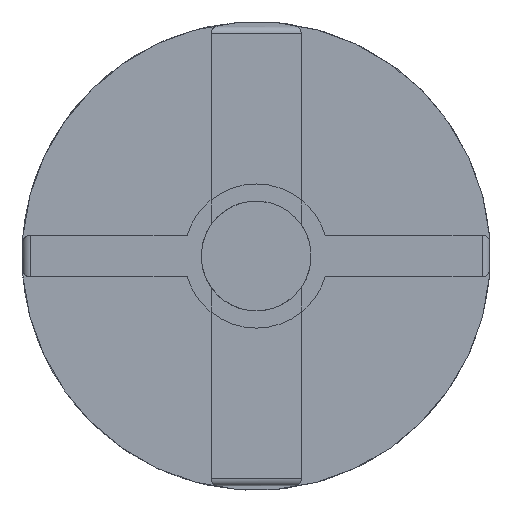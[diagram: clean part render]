
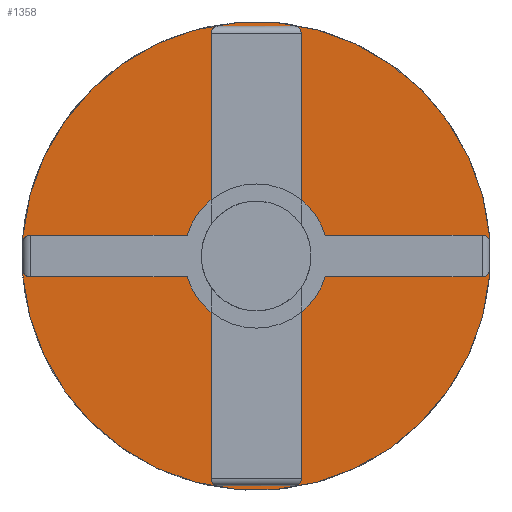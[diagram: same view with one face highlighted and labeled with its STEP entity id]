
A CAD part, front view. The second image highlights one B-rep face of the part: STEP entity #1358.
In plain terms, the highlighted planar face has unit normal (0, -1, 0).
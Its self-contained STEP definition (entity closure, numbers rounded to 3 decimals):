
#90=LINE('',#2183,#202);
#94=LINE('',#2195,#206);
#98=LINE('',#2207,#210);
#102=LINE('',#2219,#214);
#106=LINE('',#2231,#218);
#110=LINE('',#2243,#222);
#114=LINE('',#2255,#226);
#118=LINE('',#2267,#230);
#122=LINE('',#2279,#234);
#126=LINE('',#2291,#238);
#130=LINE('',#2303,#242);
#134=LINE('',#2313,#246);
#202=VECTOR('',#1793,10.);
#206=VECTOR('',#1805,10.);
#210=VECTOR('',#1817,10.);
#214=VECTOR('',#1829,10.);
#218=VECTOR('',#1841,10.);
#222=VECTOR('',#1853,10.);
#226=VECTOR('',#1865,10.);
#230=VECTOR('',#1877,10.);
#234=VECTOR('',#1889,10.);
#238=VECTOR('',#1901,10.);
#242=VECTOR('',#1913,10.);
#246=VECTOR('',#1925,10.);
#326=PLANE('',#1514);
#342=FACE_BOUND('',#521,.T.);
#424=FACE_OUTER_BOUND('',#520,.T.);
#520=EDGE_LOOP('',(#1213));
#521=EDGE_LOOP('',(#1214,#1215,#1216,#1217,#1218,#1219,#1220,#1221,#1222,
#1223,#1224,#1225,#1226,#1227,#1228,#1229,#1230,#1231,#1232,#1233,#1234,
#1235,#1236,#1237));
#562=CIRCLE('',#1465,0.5);
#564=CIRCLE('',#1469,0.5);
#566=CIRCLE('',#1473,4.925);
#568=CIRCLE('',#1477,0.5);
#570=CIRCLE('',#1481,0.5);
#572=CIRCLE('',#1485,4.925);
#574=CIRCLE('',#1489,0.5);
#576=CIRCLE('',#1493,0.5);
#578=CIRCLE('',#1497,4.925);
#580=CIRCLE('',#1501,0.5);
#582=CIRCLE('',#1505,0.5);
#584=CIRCLE('',#1509,4.925);
#585=CIRCLE('',#1512,16.);
#658=VERTEX_POINT('',#2174);
#659=VERTEX_POINT('',#2176);
#661=VERTEX_POINT('',#2182);
#663=VERTEX_POINT('',#2188);
#665=VERTEX_POINT('',#2194);
#667=VERTEX_POINT('',#2200);
#669=VERTEX_POINT('',#2206);
#671=VERTEX_POINT('',#2212);
#673=VERTEX_POINT('',#2218);
#675=VERTEX_POINT('',#2224);
#677=VERTEX_POINT('',#2230);
#679=VERTEX_POINT('',#2236);
#681=VERTEX_POINT('',#2242);
#683=VERTEX_POINT('',#2248);
#685=VERTEX_POINT('',#2254);
#687=VERTEX_POINT('',#2260);
#689=VERTEX_POINT('',#2266);
#691=VERTEX_POINT('',#2272);
#693=VERTEX_POINT('',#2278);
#695=VERTEX_POINT('',#2284);
#697=VERTEX_POINT('',#2290);
#699=VERTEX_POINT('',#2296);
#701=VERTEX_POINT('',#2302);
#703=VERTEX_POINT('',#2308);
#704=VERTEX_POINT('',#2315);
#817=EDGE_CURVE('',#659,#658,#562,.T.);
#820=EDGE_CURVE('',#661,#659,#90,.T.);
#823=EDGE_CURVE('',#663,#661,#564,.T.);
#826=EDGE_CURVE('',#665,#663,#94,.T.);
#829=EDGE_CURVE('',#667,#665,#566,.T.);
#832=EDGE_CURVE('',#669,#667,#98,.T.);
#835=EDGE_CURVE('',#671,#669,#568,.T.);
#838=EDGE_CURVE('',#673,#671,#102,.T.);
#841=EDGE_CURVE('',#675,#673,#570,.T.);
#844=EDGE_CURVE('',#677,#675,#106,.T.);
#847=EDGE_CURVE('',#679,#677,#572,.T.);
#850=EDGE_CURVE('',#681,#679,#110,.T.);
#853=EDGE_CURVE('',#683,#681,#574,.T.);
#856=EDGE_CURVE('',#685,#683,#114,.T.);
#859=EDGE_CURVE('',#687,#685,#576,.T.);
#862=EDGE_CURVE('',#689,#687,#118,.T.);
#865=EDGE_CURVE('',#691,#689,#578,.T.);
#868=EDGE_CURVE('',#693,#691,#122,.T.);
#871=EDGE_CURVE('',#695,#693,#580,.T.);
#874=EDGE_CURVE('',#697,#695,#126,.T.);
#877=EDGE_CURVE('',#699,#697,#582,.T.);
#880=EDGE_CURVE('',#701,#699,#130,.T.);
#883=EDGE_CURVE('',#703,#701,#584,.T.);
#886=EDGE_CURVE('',#658,#703,#134,.T.);
#887=EDGE_CURVE('',#704,#704,#585,.T.);
#1213=ORIENTED_EDGE('',*,*,#887,.T.);
#1214=ORIENTED_EDGE('',*,*,#886,.T.);
#1215=ORIENTED_EDGE('',*,*,#883,.T.);
#1216=ORIENTED_EDGE('',*,*,#880,.T.);
#1217=ORIENTED_EDGE('',*,*,#877,.T.);
#1218=ORIENTED_EDGE('',*,*,#874,.T.);
#1219=ORIENTED_EDGE('',*,*,#871,.T.);
#1220=ORIENTED_EDGE('',*,*,#868,.T.);
#1221=ORIENTED_EDGE('',*,*,#865,.T.);
#1222=ORIENTED_EDGE('',*,*,#862,.T.);
#1223=ORIENTED_EDGE('',*,*,#859,.T.);
#1224=ORIENTED_EDGE('',*,*,#856,.T.);
#1225=ORIENTED_EDGE('',*,*,#853,.T.);
#1226=ORIENTED_EDGE('',*,*,#850,.T.);
#1227=ORIENTED_EDGE('',*,*,#847,.T.);
#1228=ORIENTED_EDGE('',*,*,#844,.T.);
#1229=ORIENTED_EDGE('',*,*,#841,.T.);
#1230=ORIENTED_EDGE('',*,*,#838,.T.);
#1231=ORIENTED_EDGE('',*,*,#835,.T.);
#1232=ORIENTED_EDGE('',*,*,#832,.T.);
#1233=ORIENTED_EDGE('',*,*,#829,.T.);
#1234=ORIENTED_EDGE('',*,*,#826,.T.);
#1235=ORIENTED_EDGE('',*,*,#823,.T.);
#1236=ORIENTED_EDGE('',*,*,#820,.T.);
#1237=ORIENTED_EDGE('',*,*,#817,.T.);
#1358=ADVANCED_FACE('',(#424,#342),#326,.F.);
#1465=AXIS2_PLACEMENT_3D('',#2177,#1787,#1788);
#1469=AXIS2_PLACEMENT_3D('',#2189,#1799,#1800);
#1473=AXIS2_PLACEMENT_3D('',#2201,#1811,#1812);
#1477=AXIS2_PLACEMENT_3D('',#2213,#1823,#1824);
#1481=AXIS2_PLACEMENT_3D('',#2225,#1835,#1836);
#1485=AXIS2_PLACEMENT_3D('',#2237,#1847,#1848);
#1489=AXIS2_PLACEMENT_3D('',#2249,#1859,#1860);
#1493=AXIS2_PLACEMENT_3D('',#2261,#1871,#1872);
#1497=AXIS2_PLACEMENT_3D('',#2273,#1883,#1884);
#1501=AXIS2_PLACEMENT_3D('',#2285,#1895,#1896);
#1505=AXIS2_PLACEMENT_3D('',#2297,#1907,#1908);
#1509=AXIS2_PLACEMENT_3D('',#2309,#1919,#1920);
#1512=AXIS2_PLACEMENT_3D('',#2316,#1928,#1929);
#1514=AXIS2_PLACEMENT_3D('',#2319,#1932,#1933);
#1787=DIRECTION('center_axis',(0.,1.,0.));
#1788=DIRECTION('ref_axis',(0.707,0.,-0.707));
#1793=DIRECTION('',(0.,0.,-1.));
#1799=DIRECTION('center_axis',(0.,1.,0.));
#1800=DIRECTION('ref_axis',(0.707,0.,0.707));
#1805=DIRECTION('',(1.,0.,0.));
#1811=DIRECTION('center_axis',(0.,1.,0.));
#1812=DIRECTION('ref_axis',(1.,0.,0.));
#1817=DIRECTION('',(0.,0.,-1.));
#1823=DIRECTION('center_axis',(0.,1.,0.));
#1824=DIRECTION('ref_axis',(0.707,0.,0.707));
#1829=DIRECTION('',(1.,0.,0.));
#1835=DIRECTION('center_axis',(0.,1.,0.));
#1836=DIRECTION('ref_axis',(-0.707,0.,0.707));
#1841=DIRECTION('',(0.,0.,1.));
#1847=DIRECTION('center_axis',(0.,1.,0.));
#1848=DIRECTION('ref_axis',(1.,0.,0.));
#1853=DIRECTION('',(1.,0.,0.));
#1859=DIRECTION('center_axis',(0.,1.,0.));
#1860=DIRECTION('ref_axis',(-0.707,0.,0.707));
#1865=DIRECTION('',(0.,0.,1.));
#1871=DIRECTION('center_axis',(0.,1.,0.));
#1872=DIRECTION('ref_axis',(-0.707,0.,-0.707));
#1877=DIRECTION('',(-1.,0.,0.));
#1883=DIRECTION('center_axis',(0.,1.,0.));
#1884=DIRECTION('ref_axis',(1.,0.,0.));
#1889=DIRECTION('',(0.,0.,1.));
#1895=DIRECTION('center_axis',(0.,1.,0.));
#1896=DIRECTION('ref_axis',(-0.707,0.,-0.707));
#1901=DIRECTION('',(-1.,0.,0.));
#1907=DIRECTION('center_axis',(0.,1.,0.));
#1908=DIRECTION('ref_axis',(0.707,0.,-0.707));
#1913=DIRECTION('',(0.,0.,-1.));
#1919=DIRECTION('center_axis',(0.,1.,0.));
#1920=DIRECTION('ref_axis',(1.,0.,0.));
#1925=DIRECTION('',(-1.,0.,0.));
#1928=DIRECTION('center_axis',(0.,-1.,0.));
#1929=DIRECTION('ref_axis',(1.,0.,0.));
#1932=DIRECTION('center_axis',(0.,1.,0.));
#1933=DIRECTION('ref_axis',(1.,0.,0.));
#2174=CARTESIAN_POINT('',(15.436,-1.3,-1.425));
#2176=CARTESIAN_POINT('',(15.936,-1.3,-0.925));
#2177=CARTESIAN_POINT('Origin',(15.436,-1.3,-0.925));
#2182=CARTESIAN_POINT('',(15.936,-1.3,0.925));
#2183=CARTESIAN_POINT('',(15.936,-1.3,-0.713));
#2188=CARTESIAN_POINT('',(15.436,-1.3,1.425));
#2189=CARTESIAN_POINT('Origin',(15.436,-1.3,0.925));
#2194=CARTESIAN_POINT('',(4.714,-1.3,1.425));
#2195=CARTESIAN_POINT('',(7.968,-1.3,1.425));
#2200=CARTESIAN_POINT('',(3.084,-1.3,3.84));
#2201=CARTESIAN_POINT('Origin',(0.,-1.3,0.));
#2206=CARTESIAN_POINT('',(3.084,-1.3,15.2));
#2207=CARTESIAN_POINT('',(3.084,-1.3,1.92));
#2212=CARTESIAN_POINT('',(2.584,-1.3,15.7));
#2213=CARTESIAN_POINT('Origin',(2.584,-1.3,15.2));
#2218=CARTESIAN_POINT('',(-2.584,-1.3,15.7));
#2219=CARTESIAN_POINT('',(1.542,-1.3,15.7));
#2224=CARTESIAN_POINT('',(-3.084,-1.3,15.2));
#2225=CARTESIAN_POINT('Origin',(-2.584,-1.3,15.2));
#2230=CARTESIAN_POINT('',(-3.084,-1.3,3.84));
#2231=CARTESIAN_POINT('',(-3.084,-1.3,7.85));
#2236=CARTESIAN_POINT('',(-4.714,-1.3,1.425));
#2237=CARTESIAN_POINT('Origin',(0.,-1.3,0.));
#2242=CARTESIAN_POINT('',(-15.436,-1.3,1.425));
#2243=CARTESIAN_POINT('',(-2.357,-1.3,1.425));
#2248=CARTESIAN_POINT('',(-15.936,-1.3,0.925));
#2249=CARTESIAN_POINT('Origin',(-15.436,-1.3,0.925));
#2254=CARTESIAN_POINT('',(-15.936,-1.3,-0.925));
#2255=CARTESIAN_POINT('',(-15.936,-1.3,0.713));
#2260=CARTESIAN_POINT('',(-15.436,-1.3,-1.425));
#2261=CARTESIAN_POINT('Origin',(-15.436,-1.3,-0.925));
#2266=CARTESIAN_POINT('',(-4.714,-1.3,-1.425));
#2267=CARTESIAN_POINT('',(-7.968,-1.3,-1.425));
#2272=CARTESIAN_POINT('',(-3.084,-1.3,-3.84));
#2273=CARTESIAN_POINT('Origin',(0.,-1.3,0.));
#2278=CARTESIAN_POINT('',(-3.084,-1.3,-15.2));
#2279=CARTESIAN_POINT('',(-3.084,-1.3,-1.92));
#2284=CARTESIAN_POINT('',(-2.584,-1.3,-15.7));
#2285=CARTESIAN_POINT('Origin',(-2.584,-1.3,-15.2));
#2290=CARTESIAN_POINT('',(2.584,-1.3,-15.7));
#2291=CARTESIAN_POINT('',(-1.542,-1.3,-15.7));
#2296=CARTESIAN_POINT('',(3.084,-1.3,-15.2));
#2297=CARTESIAN_POINT('Origin',(2.584,-1.3,-15.2));
#2302=CARTESIAN_POINT('',(3.084,-1.3,-3.84));
#2303=CARTESIAN_POINT('',(3.084,-1.3,-7.85));
#2308=CARTESIAN_POINT('',(4.714,-1.3,-1.425));
#2309=CARTESIAN_POINT('Origin',(0.,-1.3,0.));
#2313=CARTESIAN_POINT('',(2.357,-1.3,-1.425));
#2315=CARTESIAN_POINT('',(15.936,-1.3,-1.425));
#2316=CARTESIAN_POINT('Origin',(0.,-1.3,0.));
#2319=CARTESIAN_POINT('Origin',(0.,-1.3,0.));
